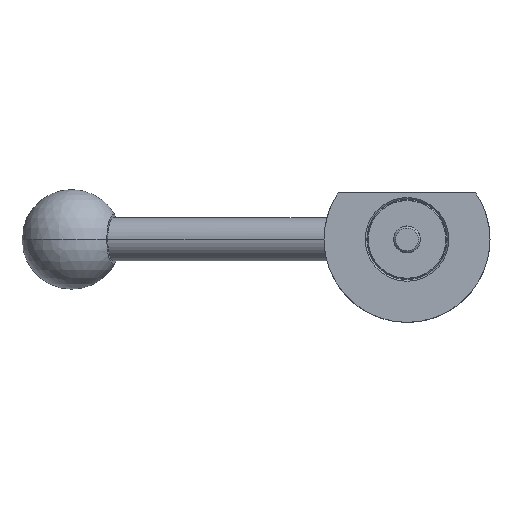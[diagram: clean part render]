
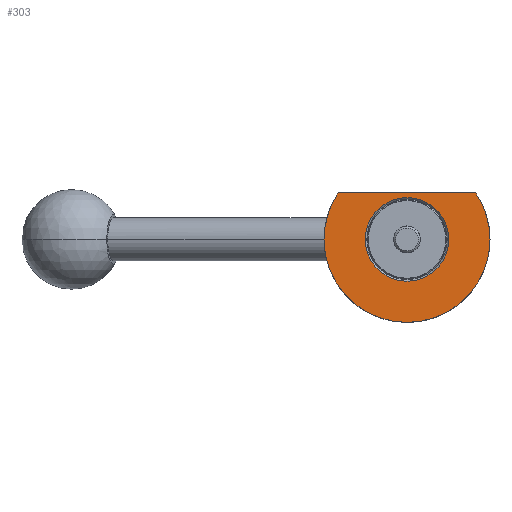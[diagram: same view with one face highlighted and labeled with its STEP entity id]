
A CAD part, front view. The second image highlights one B-rep face of the part: STEP entity #303.
In plain terms, the highlighted planar face has unit normal (0, -1, 0).
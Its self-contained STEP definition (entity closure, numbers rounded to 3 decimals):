
#4 = EDGE_CURVE ( 'NONE', #896, #1774, #1381, .T. ) ;
#13 = EDGE_CURVE ( 'NONE', #1821, #343, #758, .T. ) ;
#25 = DIRECTION ( 'NONE',  ( 0., 1., 0. ) ) ;
#62 = ORIENTED_EDGE ( 'NONE', *, *, #882, .F. ) ;
#68 = DIRECTION ( 'NONE',  ( 1., 0., 0. ) ) ;
#77 = DIRECTION ( 'NONE',  ( -1., 0., 0. ) ) ;
#226 = DIRECTION ( 'NONE',  ( 0., 1., 0. ) ) ;
#241 = CARTESIAN_POINT ( 'NONE',  ( 0., -12., 0. ) ) ;
#303 = ADVANCED_FACE ( 'NONE', ( #1008, #1167 ), #1930, .T. ) ;
#317 = CARTESIAN_POINT ( 'NONE',  ( -25., -12., 0. ) ) ;
#343 = VERTEX_POINT ( 'NONE', #1043 ) ;
#346 = AXIS2_PLACEMENT_3D ( 'NONE', #1229, #1844, #452 ) ;
#376 = CARTESIAN_POINT ( 'NONE',  ( -12.6, -12., 0. ) ) ;
#381 = DIRECTION ( 'NONE',  ( 0., -1., 0. ) ) ;
#414 = CARTESIAN_POINT ( 'NONE',  ( 0., -12., 0. ) ) ;
#452 = DIRECTION ( 'NONE',  ( -1., 0., 0. ) ) ;
#493 = AXIS2_PLACEMENT_3D ( 'NONE', #241, #903, #77 ) ;
#585 = ORIENTED_EDGE ( 'NONE', *, *, #1820, .T. ) ;
#734 = AXIS2_PLACEMENT_3D ( 'NONE', #414, #226, #1030 ) ;
#758 = CIRCLE ( 'NONE', #346, 12.6 ) ;
#828 = EDGE_LOOP ( 'NONE', ( #585, #1002 ) ) ;
#864 = ORIENTED_EDGE ( 'NONE', *, *, #1574, .F. ) ;
#882 = EDGE_CURVE ( 'NONE', #1051, #1761, #1274, .T. ) ;
#896 = VERTEX_POINT ( 'NONE', #1573 ) ;
#903 = DIRECTION ( 'NONE',  ( 0., 1., 0. ) ) ;
#931 = AXIS2_PLACEMENT_3D ( 'NONE', #1508, #1800, #1959 ) ;
#946 = CARTESIAN_POINT ( 'NONE',  ( 0., -12., 0. ) ) ;
#991 = EDGE_LOOP ( 'NONE', ( #1485, #1836, #864, #62 ) ) ;
#1002 = ORIENTED_EDGE ( 'NONE', *, *, #13, .T. ) ;
#1008 = FACE_BOUND ( 'NONE', #828, .T. ) ;
#1030 = DIRECTION ( 'NONE',  ( -1., 0., 0. ) ) ;
#1043 = CARTESIAN_POINT ( 'NONE',  ( 12.6, -12., 0. ) ) ;
#1051 = VERTEX_POINT ( 'NONE', #1941 ) ;
#1077 = CARTESIAN_POINT ( 'NONE',  ( -12.6, -12., 14. ) ) ;
#1167 = FACE_OUTER_BOUND ( 'NONE', #991, .T. ) ;
#1211 = AXIS2_PLACEMENT_3D ( 'NONE', #946, #25, #1258 ) ;
#1229 = CARTESIAN_POINT ( 'NONE',  ( 0., -12., 0. ) ) ;
#1245 = CIRCLE ( 'NONE', #734, 12.6 ) ;
#1258 = DIRECTION ( 'NONE',  ( -1., 0., 0. ) ) ;
#1274 = CIRCLE ( 'NONE', #1211, 25. ) ;
#1299 = AXIS2_PLACEMENT_3D ( 'NONE', #1779, #381, #68 ) ;
#1381 = LINE ( 'NONE', #1077, #1710 ) ;
#1485 = ORIENTED_EDGE ( 'NONE', *, *, #1920, .F. ) ;
#1508 = CARTESIAN_POINT ( 'NONE',  ( 0., -12., 0. ) ) ;
#1573 = CARTESIAN_POINT ( 'NONE',  ( 20.712, -12., 14. ) ) ;
#1574 = EDGE_CURVE ( 'NONE', #1761, #1774, #1595, .T. ) ;
#1595 = CIRCLE ( 'NONE', #493, 25. ) ;
#1639 = CARTESIAN_POINT ( 'NONE',  ( -20.712, -12., 14. ) ) ;
#1683 = DIRECTION ( 'NONE',  ( -1., 0., 0. ) ) ;
#1710 = VECTOR ( 'NONE', #1683, 1000. ) ;
#1761 = VERTEX_POINT ( 'NONE', #317 ) ;
#1774 = VERTEX_POINT ( 'NONE', #1639 ) ;
#1779 = CARTESIAN_POINT ( 'NONE',  ( -12.6, -12., 0. ) ) ;
#1800 = DIRECTION ( 'NONE',  ( 0., 1., 0. ) ) ;
#1820 = EDGE_CURVE ( 'NONE', #343, #1821, #1245, .T. ) ;
#1821 = VERTEX_POINT ( 'NONE', #376 ) ;
#1836 = ORIENTED_EDGE ( 'NONE', *, *, #4, .T. ) ;
#1844 = DIRECTION ( 'NONE',  ( 0., 1., 0. ) ) ;
#1858 = CIRCLE ( 'NONE', #931, 25. ) ;
#1920 = EDGE_CURVE ( 'NONE', #896, #1051, #1858, .T. ) ;
#1930 = PLANE ( 'NONE',  #1299 ) ;
#1941 = CARTESIAN_POINT ( 'NONE',  ( 25., -12., 0. ) ) ;
#1959 = DIRECTION ( 'NONE',  ( -1., 0., 0. ) ) ;
